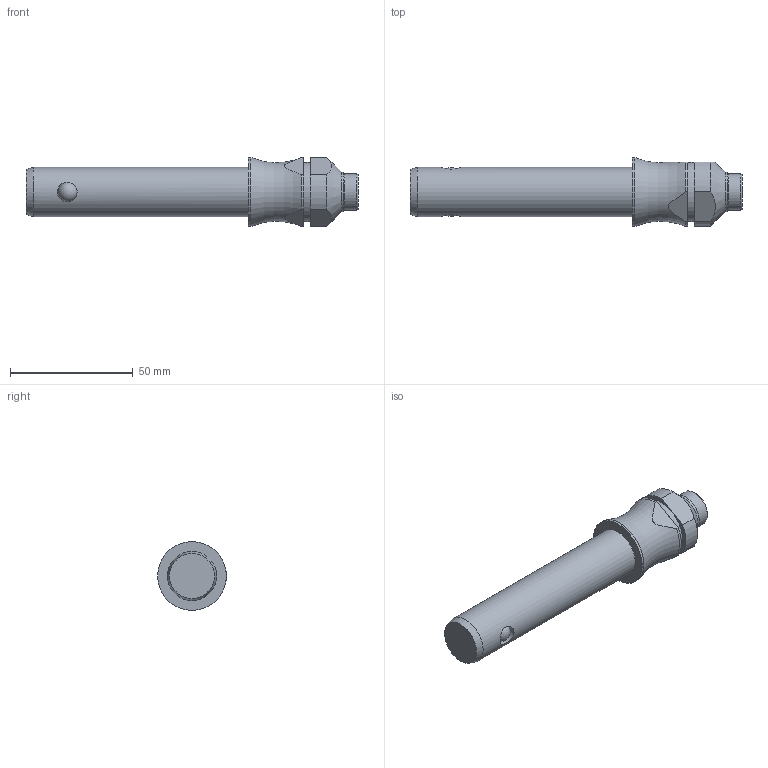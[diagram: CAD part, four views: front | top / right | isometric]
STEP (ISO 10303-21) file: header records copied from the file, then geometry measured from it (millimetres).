
FILE_DESCRIPTION( ( 'STEP AP203' ), '1' );
FILE_NAME( 'C:/Temp/Ganter_Step_05_03_2020/data/3_1/gn113_3/Stainless Steel-Ball lock pin GN 113.3-20-70 (activated).stp', '2020-03-12T08:19:03', ( 'License CC BY-ND 4.0' ), ( 'CADENAS' ), ' ', 'PARTsolutions', ' ' );
FILE_SCHEMA( ( 'CONFIG_CONTROL_DESIGN' ) );
Length unit declared in the file: millimetre
Products named in the file (1): _Stainless Steel-Ball lock pin GN 113.3-20-70 (activated)
Bounding box: 135.05 x 28 x 28 mm (x, y, z)
Volume: 47996.9 mm3; surface area: 10416.4 mm2
Topology: 1 solids, 1 shells, 31 faces, 76 edges, 47 vertices
Faces by surface type: cylinder 13, plane 11, cone 4, sphere 2, torus 1
Full cylindrical faces by diameter (mm): 8 x2, 15 x1, 16 x1, 20 x1, 24 x1, 28 x1
Entity records: 1054 total; most frequent: CARTESIAN_POINT 390, DIRECTION 134, ORIENTED_EDGE 104, AXIS2_PLACEMENT_3D 58, EDGE_CURVE 52, EDGE_LOOP 48, VERTEX_POINT 40, FACE_OUTER_BOUND 39
